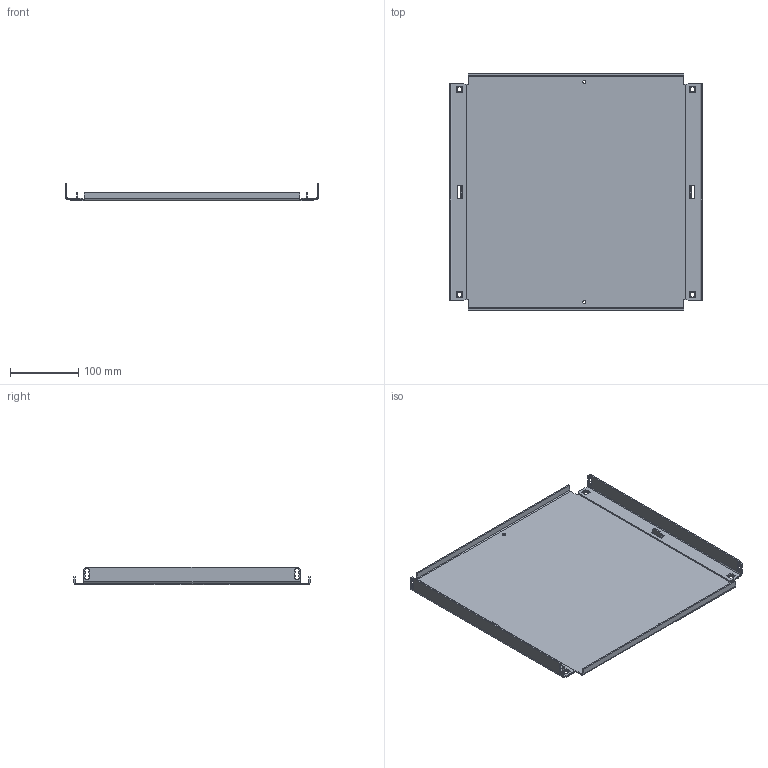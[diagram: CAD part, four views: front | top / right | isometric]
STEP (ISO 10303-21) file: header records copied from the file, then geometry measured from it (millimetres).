
FILE_DESCRIPTION(('STEP AP203'), '1');
FILE_NAME('Ïàíåëü ìîíòàæíàÿ ãëóõàÿ Â350õØ400 ìì OptiBox M 419113 ÊÝÀÇ', '', ('UNSPECIFIED'), ('UNSPECIFIED'), 'C3D Converter', 'C3D Toolkit', '');
FILE_SCHEMA(('CONFIG_CONTROL_DESIGN'));
Length unit declared in the file: millimetre
Bounding box: 369.2 x 345 x 26 mm (x, y, z)
Volume: 307391.1 mm3; surface area: 314422.7 mm2
Topology: 3 solids, 3 shells, 152 faces, 398 edges, 252 vertices
Faces by surface type: plane 118, cylinder 34
Full cylindrical faces by diameter (mm): 4.6 x2, 7.3 x4
Entity records: 5892 total; most frequent: CARTESIAN_POINT 797, ORIENTED_EDGE 784, DIRECTION 766, EDGE_CURVE 392, LINE 324, VECTOR 324, VERTEX_POINT 252, AXIS2_PLACEMENT_3D 221
